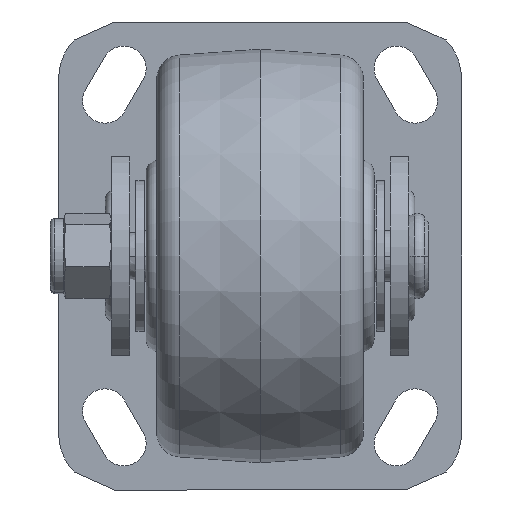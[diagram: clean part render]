
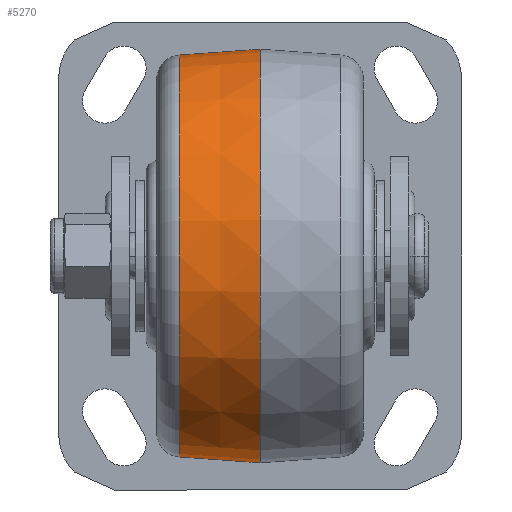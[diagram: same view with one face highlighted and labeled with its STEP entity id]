
A CAD part, front view. The second image highlights one B-rep face of the part: STEP entity #5270.
In plain terms, the highlighted conical face has half-angle 4.083 degrees and reference radius 50.8 mm.
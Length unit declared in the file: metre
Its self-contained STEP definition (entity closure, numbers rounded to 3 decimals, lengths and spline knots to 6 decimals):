
#283 = EDGE_CURVE ( 'NONE', #2805, #4968, #4348, .T. ) ;
#451 = EDGE_CURVE ( 'NONE', #2677, #2886, #4554, .T. ) ;
#580 = EDGE_CURVE ( 'NONE', #2677, #2805, #3096, .T. ) ;
#663 = CARTESIAN_POINT ( 'NONE',  ( 0., -0.0855, 0.0508 ) ) ;
#751 = DIRECTION ( 'NONE',  ( -1., 0., 0. ) ) ;
#937 = CARTESIAN_POINT ( 'NONE',  ( 0., -0.0855, -0.0508 ) ) ;
#1020 = DIRECTION ( 'NONE',  ( 1., 0., 0. ) ) ;
#1093 = DIRECTION ( 'NONE',  ( 0.997, 0., 0.071 ) ) ;
#1754 = DIRECTION ( 'NONE',  ( -1., 0., 0. ) ) ;
#1897 = CARTESIAN_POINT ( 'NONE',  ( 0., -0.0855, 0. ) ) ;
#1936 = ORIENTED_EDGE ( 'NONE', *, *, #451, .T. ) ;
#1981 = CARTESIAN_POINT ( 'NONE',  ( 0., -0.0855, 0. ) ) ;
#2186 = DIRECTION ( 'NONE',  ( 0., 0., 1. ) ) ;
#2659 = CARTESIAN_POINT ( 'NONE',  ( -0.019827, -0.0855, 0.049385 ) ) ;
#2671 = EDGE_LOOP ( 'NONE', ( #3586, #2944, #1936, #4718 ) ) ;
#2677 = VERTEX_POINT ( 'NONE', #3005 ) ;
#2805 = VERTEX_POINT ( 'NONE', #2659 ) ;
#2886 = VERTEX_POINT ( 'NONE', #937 ) ;
#2887 = CONICAL_SURFACE ( 'NONE', #3750, 0.0508, 0.071 ) ;
#2904 = DIRECTION ( 'NONE',  ( 0., 0., 1. ) ) ;
#2944 = ORIENTED_EDGE ( 'NONE', *, *, #580, .F. ) ;
#3005 = CARTESIAN_POINT ( 'NONE',  ( -0.019827, -0.0855, -0.049385 ) ) ;
#3096 = CIRCLE ( 'NONE', #3365, 0.049385 ) ;
#3318 = CARTESIAN_POINT ( 'NONE',  ( 0., -0.0855, -0.0508 ) ) ;
#3365 = AXIS2_PLACEMENT_3D ( 'NONE', #4662, #1754, #2186 ) ;
#3376 = DIRECTION ( 'NONE',  ( 0.997, 0., -0.071 ) ) ;
#3586 = ORIENTED_EDGE ( 'NONE', *, *, #283, .F. ) ;
#3750 = AXIS2_PLACEMENT_3D ( 'NONE', #1897, #1020, #3973 ) ;
#3836 = AXIS2_PLACEMENT_3D ( 'NONE', #1981, #751, #2904 ) ;
#3973 = DIRECTION ( 'NONE',  ( 0., 0., -1. ) ) ;
#4205 = CARTESIAN_POINT ( 'NONE',  ( 0., -0.0855, 0.0508 ) ) ;
#4212 = VECTOR ( 'NONE', #1093, 1. ) ;
#4278 = FACE_OUTER_BOUND ( 'NONE', #2671, .T. ) ;
#4348 = LINE ( 'NONE', #663, #4212 ) ;
#4554 = LINE ( 'NONE', #3318, #4714 ) ;
#4662 = CARTESIAN_POINT ( 'NONE',  ( -0.019827, -0.0855, 0. ) ) ;
#4714 = VECTOR ( 'NONE', #3376, 1. ) ;
#4718 = ORIENTED_EDGE ( 'NONE', *, *, #5055, .T. ) ;
#4937 = CIRCLE ( 'NONE', #3836, 0.0508 ) ;
#4968 = VERTEX_POINT ( 'NONE', #4205 ) ;
#5055 = EDGE_CURVE ( 'NONE', #2886, #4968, #4937, .T. ) ;
#5270 = ADVANCED_FACE ( 'NONE', ( #4278 ), #2887, .T. ) ;
